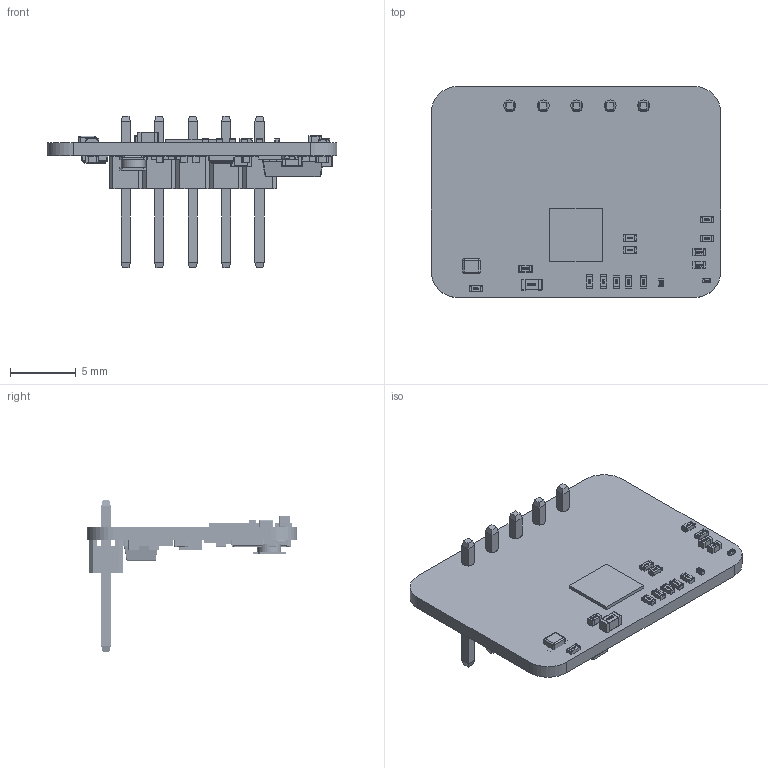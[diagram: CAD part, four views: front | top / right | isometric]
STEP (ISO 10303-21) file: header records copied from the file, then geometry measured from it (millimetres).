
FILE_DESCRIPTION(('Open CASCADE Model'),'2;1');
FILE_NAME('Open CASCADE Shape Model','2023-03-06T15:20:56',('Author'),( 'Open CASCADE'),'Open CASCADE STEP processor 6.8','Open CASCADE 6.8' ,'Unknown');
FILE_SCHEMA(('AUTOMOTIVE_DESIGN { 1 0 10303 214 1 1 1 1 }'));
Length unit declared in the file: millimetre
Products named in the file (89): PCB; Board; Open CASCADE STEP translator 6.8 1.1.1; L3; R_0201; LOGO?; R20; C18; C_0201; C17; C16; C_0402; C15; R19; R_0402; R16; U3; SOT89; LOGO?0.25; U2; 6715745248; Extruded; U1; 6715736528; L1; NR2520; LOGO?0.15; P1; HDR2.54-1P; D1; LED_0805; Y2; OSC_2025-4; Y1; R18; R17; R15; R_0603; R14; R13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
Assembly tree (126 placements, depth 4):
  PCB
    Board
      Open CASCADE STEP translator 6.8 1.1.1
    L3
      R_0201
        R_0201
        LOGO?
    R20
      R_0201
        R_0201
        LOGO?
    C18
      C_0201
        LOGO?
        C_0201
    C17
      C_0201
        LOGO?
        C_0201
    C16
      C_0402
        LOGO?
        C_0402
    C15
      C_0402
        LOGO?
        C_0402
    R19
      R_0402
        R_0402
        LOGO?
    R16
      R_0402
        R_0402
        LOGO?
    U3
      SOT89
        SOT89
        LOGO?0.25
    U2
      6715745248
        Extruded
    U1
      6715736528
        Extruded
    L1
      NR2520
        NR2520
        LOGO?0.15
    P1
      HDR2.54-1P  x5
        HDR2.54-1P
        LOGO?
    D1
      LED_0805
    Y2
      OSC_2025-4
        OSC_2025-4
        LOGO?0.15
    Y1
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Bounding box: 22 x 16 x 11.5 mm (x, y, z)
Volume: 480.8 mm3; surface area: 1456.3 mm2
Topology: 833 solids, 833 shells, 9667 faces, 22649 edges, 14810 vertices
Faces by surface type: plane 5516, bspline 2697, cylinder 1278, sphere 152, revolution 12, torus 12
Full cylindrical faces by diameter (mm): 0.9 x5
Entity records: 107400 total; most frequent: CARTESIAN_POINT 40593, ORIENTED_EDGE 11092, DIRECTION 8400, EDGE_CURVE 5546, VERTEX_POINT 3648, LINE 3468, VECTOR 3468, FACE_BOUND 2574
